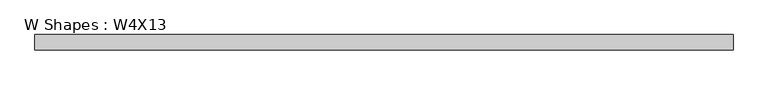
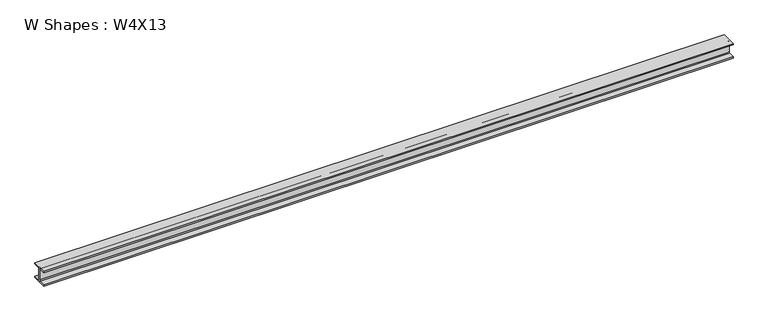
"""IFC4 building model written with IfcOpenShell, lengths in millimetres: beam geometry, W Shapes : W4X13."""

from ifc_helpers import new_model, si_unit, point, frame, frame_2d, origin, place, context, project, spatial, polyline, circle_curve, trimmed, segment, composite_curve, outline, extrude, source, transform, mapped, element, save


def w_shapes_w4x13_2dc6f00b(model_context):
    return source(origin(), model_context, "Body", "SweptSolid", [
        extrude(outline(composite_curve([segment(polyline([(-51.562, -44.069), (-9.906, -44.069)]), True, "CONTINUOUS"), segment(trimmed(circle_curve(frame_2d((-9.906, -37.719)), 6.35), [point((-9.906, -44.069))], [point((-3.556, -37.719))], True, "CARTESIAN"), True, "CONTINUOUS"), segment(polyline([(-3.556, -37.719), (-3.556, 37.719)]), True, "CONTINUOUS"), segment(trimmed(circle_curve(frame_2d((-9.906, 37.719)), 6.35), [point((-3.556, 37.719))], [point((-9.906, 44.069))], True, "CARTESIAN"), True, "CONTINUOUS"), segment(polyline([(-9.906, 44.069), (-51.562, 44.069), (-51.562, 52.832), (51.562, 52.832), (51.562, 44.069), (9.906, 44.069)]), True, "CONTINUOUS"), segment(trimmed(circle_curve(frame_2d((9.906, 37.719)), 6.35), [point((9.906, 44.069))], [point((3.556, 37.719))], True, "CARTESIAN"), True, "CONTINUOUS"), segment(polyline([(3.556, 37.719), (3.556, -37.719)]), True, "CONTINUOUS"), segment(trimmed(circle_curve(frame_2d((9.906, -37.719)), 6.35), [point((3.556, -37.719))], [point((9.906, -44.069))], True, "CARTESIAN"), True, "CONTINUOUS"), segment(polyline([(9.906, -44.069), (51.562, -44.069), (51.562, -52.832), (-51.562, -52.832), (-51.562, -44.069)]), True, "CONTINUOUS")], self_intersect=False)), frame((-2355.723, 0.0, 0.0), z_axis=(1.0, 0.0, 0.0), x_axis=(0.0, 1.0, 0.0)), (0.0, 0.0, 1.0), 4711.446),
    ])


if __name__ == "__main__":
    model = new_model("IFC4")
    model_context = context("Model", 3, world=origin())
    ifc_project = project(units=[si_unit("LENGTHUNIT", "METRE", prefix="MILLI")], contexts=[model_context])
    site = spatial("IfcSite", under=ifc_project)
    building = spatial("IfcBuilding", under=site)
    placement = place(None, origin())
    w_shapes_w4x13_shape = w_shapes_w4x13_2dc6f00b(model_context)
    element("IfcBeam", 1, ObjectType="W Shapes : W4X13", at=placement, inside=building, context=model_context, shape_type="MappedRepresentation", body=[
        mapped(w_shapes_w4x13_shape, transform((0.0, 0.0, 0.0), x_axis=(1.0, 0.0, 0.0), y_axis=(0.0, 1.0, 0.0), z_axis=(0.0, 0.0, 1.0))),
    ])
    save(model, "model.ifc")
